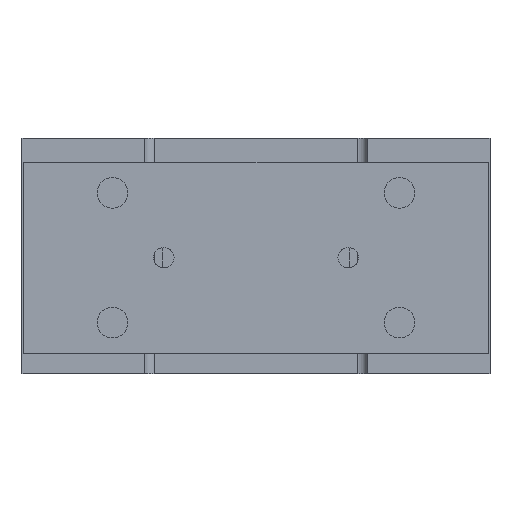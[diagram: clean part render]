
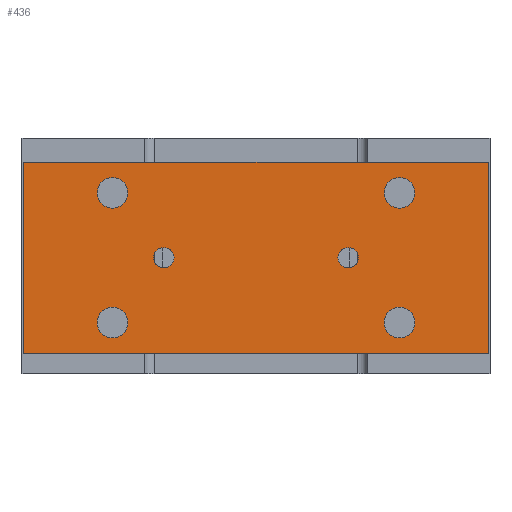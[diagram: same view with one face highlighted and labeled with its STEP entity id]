
A CAD part, left-side view. The second image highlights one B-rep face of the part: STEP entity #436.
In plain terms, the highlighted planar face has unit normal (-1, 0, 0).
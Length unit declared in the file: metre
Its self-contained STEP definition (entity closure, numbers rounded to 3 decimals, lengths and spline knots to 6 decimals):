
#436 = ADVANCED_FACE( '', ( #1056, #1057, #1058, #1059, #1060, #1061, #1062 ), #1063, .T. );
#1056 = FACE_BOUND( '', #1912, .T. );
#1057 = FACE_BOUND( '', #1913, .T. );
#1058 = FACE_BOUND( '', #1914, .T. );
#1059 = FACE_BOUND( '', #1915, .T. );
#1060 = FACE_BOUND( '', #1916, .T. );
#1061 = FACE_BOUND( '', #1917, .T. );
#1062 = FACE_OUTER_BOUND( '', #1918, .T. );
#1063 = PLANE( '', #1919 );
#1912 = EDGE_LOOP( '', ( #3103 ) );
#1913 = EDGE_LOOP( '', ( #3104 ) );
#1914 = EDGE_LOOP( '', ( #3105 ) );
#1915 = EDGE_LOOP( '', ( #3106 ) );
#1916 = EDGE_LOOP( '', ( #3107 ) );
#1917 = EDGE_LOOP( '', ( #3108 ) );
#1918 = EDGE_LOOP( '', ( #3109, #3110, #3111, #3112 ) );
#1919 = AXIS2_PLACEMENT_3D( '', #3113, #3114, #3115 );
#3103 = ORIENTED_EDGE( '', *, *, #4376, .F. );
#3104 = ORIENTED_EDGE( '', *, *, #4167, .F. );
#3105 = ORIENTED_EDGE( '', *, *, #4185, .F. );
#3106 = ORIENTED_EDGE( '', *, *, #4377, .F. );
#3107 = ORIENTED_EDGE( '', *, *, #4231, .F. );
#3108 = ORIENTED_EDGE( '', *, *, #4217, .T. );
#3109 = ORIENTED_EDGE( '', *, *, #4378, .T. );
#3110 = ORIENTED_EDGE( '', *, *, #4097, .T. );
#3111 = ORIENTED_EDGE( '', *, *, #4379, .T. );
#3112 = ORIENTED_EDGE( '', *, *, #4380, .T. );
#3113 = CARTESIAN_POINT( '', ( -0.1025, -0.068, -0.007 ) );
#3114 = DIRECTION( '', ( -1., 0., 0. ) );
#3115 = DIRECTION( '', ( 0., 0., 1. ) );
#4097 = EDGE_CURVE( '', #4723, #4721, #4724, .T. );
#4167 = EDGE_CURVE( '', #4841, #4841, #4842, .T. );
#4185 = EDGE_CURVE( '', #4871, #4871, #4872, .T. );
#4217 = EDGE_CURVE( '', #4922, #4922, #4923, .T. );
#4231 = EDGE_CURVE( '', #4942, #4942, #4943, .T. );
#4376 = EDGE_CURVE( '', #5166, #5166, #5167, .T. );
#4377 = EDGE_CURVE( '', #5168, #5168, #5169, .T. );
#4378 = EDGE_CURVE( '', #5170, #4723, #5171, .T. );
#4379 = EDGE_CURVE( '', #4721, #5172, #5173, .T. );
#4380 = EDGE_CURVE( '', #5172, #5170, #5174, .T. );
#4721 = VERTEX_POINT( '', #5611 );
#4723 = VERTEX_POINT( '', #5614 );
#4724 = LINE( '', #5615, #5616 );
#4841 = VERTEX_POINT( '', #5797 );
#4842 = CIRCLE( '', #5798, 0.0045 );
#4871 = VERTEX_POINT( '', #5839 );
#4872 = CIRCLE( '', #5840, 0.0045 );
#4922 = VERTEX_POINT( '', #5906 );
#4923 = CIRCLE( '', #5907, 0.003 );
#4942 = VERTEX_POINT( '', #5964 );
#4943 = CIRCLE( '', #5965, 0.003 );
#5166 = VERTEX_POINT( '', #6310 );
#5167 = CIRCLE( '', #6311, 0.0045 );
#5168 = VERTEX_POINT( '', #6312 );
#5169 = CIRCLE( '', #6313, 0.0045 );
#5170 = VERTEX_POINT( '', #6314 );
#5171 = LINE( '', #6315, #6316 );
#5172 = VERTEX_POINT( '', #6317 );
#5173 = LINE( '', #6318, #6319 );
#5174 = LINE( '', #6320, #6321 );
#5611 = CARTESIAN_POINT( '', ( -0.1025, 0.068, -0.007 ) );
#5614 = CARTESIAN_POINT( '', ( -0.1025, -0.068, -0.007 ) );
#5615 = CARTESIAN_POINT( '', ( -0.1025, -0.068, -0.007 ) );
#5616 = VECTOR( '', #6919, 1. );
#5797 = CARTESIAN_POINT( '', ( -0.1025, 0.0375, -0.054 ) );
#5798 = AXIS2_PLACEMENT_3D( '', #7008, #7009, #7010 );
#5839 = CARTESIAN_POINT( '', ( -0.1025, -0.0465, -0.016 ) );
#5840 = AXIS2_PLACEMENT_3D( '', #7026, #7027, #7028 );
#5906 = CARTESIAN_POINT( '', ( -0.1025, 0.024, -0.035 ) );
#5907 = AXIS2_PLACEMENT_3D( '', #7066, #7067, #7068 );
#5964 = CARTESIAN_POINT( '', ( -0.1025, -0.024, -0.035 ) );
#5965 = AXIS2_PLACEMENT_3D( '', #7083, #7084, #7085 );
#6310 = CARTESIAN_POINT( '', ( -0.1025, -0.0465, -0.054 ) );
#6311 = AXIS2_PLACEMENT_3D( '', #7268, #7269, #7270 );
#6312 = CARTESIAN_POINT( '', ( -0.1025, 0.0375, -0.016 ) );
#6313 = AXIS2_PLACEMENT_3D( '', #7271, #7272, #7273 );
#6314 = CARTESIAN_POINT( '', ( -0.1025, -0.068, -0.063 ) );
#6315 = CARTESIAN_POINT( '', ( -0.1025, -0.068, -0.063 ) );
#6316 = VECTOR( '', #7274, 1. );
#6317 = CARTESIAN_POINT( '', ( -0.1025, 0.068, -0.063 ) );
#6318 = CARTESIAN_POINT( '', ( -0.1025, 0.068, -0.007 ) );
#6319 = VECTOR( '', #7275, 1. );
#6320 = CARTESIAN_POINT( '', ( -0.1025, 0.068, -0.063 ) );
#6321 = VECTOR( '', #7276, 1. );
#6919 = DIRECTION( '', ( 0., 1., 0. ) );
#7008 = CARTESIAN_POINT( '', ( -0.1025, 0.042, -0.054 ) );
#7009 = DIRECTION( '', ( -1., 0., 0. ) );
#7010 = DIRECTION( '', ( 0., -1., 0. ) );
#7026 = CARTESIAN_POINT( '', ( -0.1025, -0.042, -0.016 ) );
#7027 = DIRECTION( '', ( -1., 0., 0. ) );
#7028 = DIRECTION( '', ( 0., -1., 0. ) );
#7066 = CARTESIAN_POINT( '', ( -0.1025, 0.027, -0.035 ) );
#7067 = DIRECTION( '', ( 1., 0., 0. ) );
#7068 = DIRECTION( '', ( 0., -1., 0. ) );
#7083 = CARTESIAN_POINT( '', ( -0.1025, -0.027, -0.035 ) );
#7084 = DIRECTION( '', ( -1., 0., 0. ) );
#7085 = DIRECTION( '', ( 0., 1., 0. ) );
#7268 = CARTESIAN_POINT( '', ( -0.1025, -0.042, -0.054 ) );
#7269 = DIRECTION( '', ( -1., 0., 0. ) );
#7270 = DIRECTION( '', ( 0., -1., 0. ) );
#7271 = CARTESIAN_POINT( '', ( -0.1025, 0.042, -0.016 ) );
#7272 = DIRECTION( '', ( -1., 0., 0. ) );
#7273 = DIRECTION( '', ( 0., -1., 0. ) );
#7274 = DIRECTION( '', ( 0., 0., 1. ) );
#7275 = DIRECTION( '', ( 0., 0., -1. ) );
#7276 = DIRECTION( '', ( 0., -1., 0. ) );
